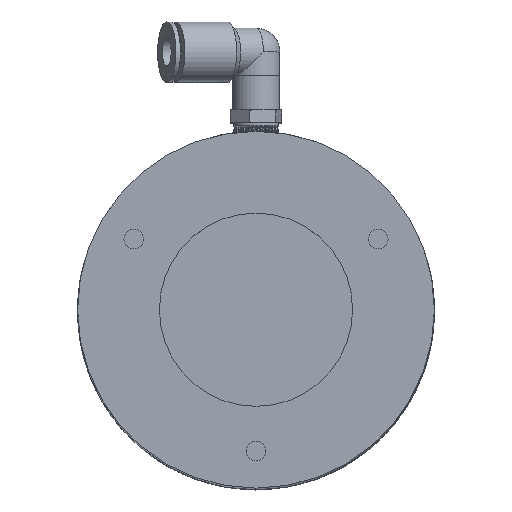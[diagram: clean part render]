
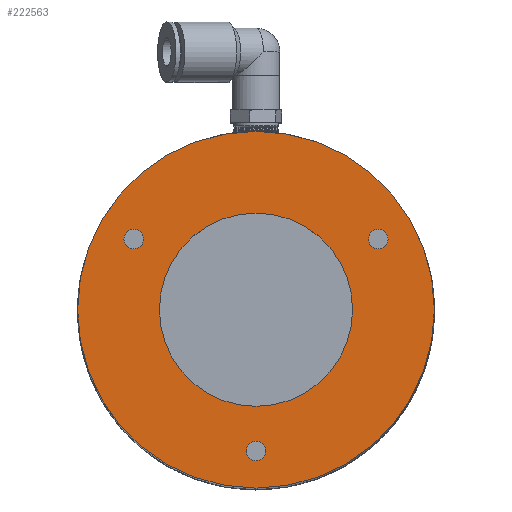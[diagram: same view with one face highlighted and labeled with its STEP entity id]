
A CAD part, top view. The second image highlights one B-rep face of the part: STEP entity #222563.
In plain terms, the highlighted planar face has unit normal (0, 0, 1).
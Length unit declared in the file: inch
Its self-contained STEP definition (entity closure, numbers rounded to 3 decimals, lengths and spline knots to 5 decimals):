
#6461 = EDGE_LOOP ( 'NONE', ( #86839, #131776 ) ) ;
#9809 = AXIS2_PLACEMENT_3D ( 'NONE', #139252, #194798, #47986 ) ;
#10966 = VERTEX_POINT ( 'NONE', #58265 ) ;
#12517 = VERTEX_POINT ( 'NONE', #188891 ) ;
#14019 = CARTESIAN_POINT ( 'NONE',  ( 0., 0., 0.75 ) ) ;
#16133 = CARTESIAN_POINT ( 'NONE',  ( -1.02841, 0.59375, 0.75 ) ) ;
#21517 = EDGE_LOOP ( 'NONE', ( #215700, #225888 ) ) ;
#23944 = EDGE_CURVE ( 'Defeatured_0_5669+Defeatured_0_79+Defeatured_0_79+Defeatured_0_79', #10966, #197312, #92041, .T. ) ;
#24301 = CARTESIAN_POINT ( 'NONE',  ( 1.11108, 0.59375, 0.75 ) ) ;
#28544 = AXIS2_PLACEMENT_3D ( 'NONE', #105483, #158685, #30418 ) ;
#30418 = DIRECTION ( 'NONE',  ( 1., 0., 0. ) ) ;
#30554 = ORIENTED_EDGE ( 'NONE', *, *, #143130, .F. ) ;
#37022 = EDGE_LOOP ( 'NONE', ( #30554, #108685 ) ) ;
#38113 = CIRCLE ( 'NONE', #69046, 0.08268 ) ;
#44803 = DIRECTION ( 'NONE',  ( 0., 0., 1. ) ) ;
#47405 = ORIENTED_EDGE ( 'NONE', *, *, #23944, .F. ) ;
#47932 = CARTESIAN_POINT ( 'NONE',  ( 0., 0., 0.75 ) ) ;
#47986 = DIRECTION ( 'NONE',  ( 1., 0., 0. ) ) ;
#49700 = AXIS2_PLACEMENT_3D ( 'NONE', #16133, #53133, #181327 ) ;
#53133 = DIRECTION ( 'NONE',  ( 0., 0., 1. ) ) ;
#55616 = EDGE_CURVE ( 'Defeatured_0_79+Defeatured_0_37+Defeatured_0_37+Defeatured_0_37', #238462, #61874, #131016, .T. ) ;
#58265 = CARTESIAN_POINT ( 'NONE',  ( -1.11108, 0.59375, 0.75 ) ) ;
#59656 = VERTEX_POINT ( 'NONE', #107648 ) ;
#61671 = CARTESIAN_POINT ( 'NONE',  ( 0., -1.1875, 0.75 ) ) ;
#61874 = VERTEX_POINT ( 'NONE', #93997 ) ;
#63909 = EDGE_LOOP ( 'NONE', ( #163580, #199422 ) ) ;
#66496 = DIRECTION ( 'NONE',  ( 0., 0., 1. ) ) ;
#68758 = DIRECTION ( 'NONE',  ( 0., 0., 1. ) ) ;
#69046 = AXIS2_PLACEMENT_3D ( 'NONE', #207910, #204773, #226422 ) ;
#69394 = AXIS2_PLACEMENT_3D ( 'NONE', #97493, #170835, #189314 ) ;
#82639 = FACE_OUTER_BOUND ( 'NONE', #6461, .T. ) ;
#86839 = ORIENTED_EDGE ( 'NONE', *, *, #203541, .T. ) ;
#88832 = AXIS2_PLACEMENT_3D ( 'NONE', #222939, #165796, #112553 ) ;
#92041 = CIRCLE ( 'NONE', #49700, 0.08268 ) ;
#93997 = CARTESIAN_POINT ( 'NONE',  ( -1.5, 0., 0.75 ) ) ;
#97493 = CARTESIAN_POINT ( 'NONE',  ( 1.02841, 0.59375, 0.75 ) ) ;
#99736 = EDGE_LOOP ( 'NONE', ( #106078, #47405 ) ) ;
#100822 = VERTEX_POINT ( 'NONE', #24301 ) ;
#101776 = EDGE_CURVE ( 'Defeatured_0_5671+Defeatured_0_79+Defeatured_0_79+Defeatured_0_79', #100822, #59656, #38113, .T. ) ;
#101913 = AXIS2_PLACEMENT_3D ( 'NONE', #14019, #68758, #163134 ) ;
#102995 = FACE_BOUND ( 'NONE', #37022, .T. ) ;
#104878 = CIRCLE ( 'NONE', #119930, 0.08268 ) ;
#105483 = CARTESIAN_POINT ( 'NONE',  ( 0., -1.1875, 0.75 ) ) ;
#106078 = ORIENTED_EDGE ( 'NONE', *, *, #137790, .F. ) ;
#107648 = CARTESIAN_POINT ( 'NONE',  ( 0.94573, 0.59375, 0.75 ) ) ;
#108685 = ORIENTED_EDGE ( 'NONE', *, *, #183009, .F. ) ;
#111823 = VERTEX_POINT ( 'NONE', #112784 ) ;
#112553 = DIRECTION ( 'NONE',  ( 1., 0., 0. ) ) ;
#112784 = CARTESIAN_POINT ( 'NONE',  ( 0.8125, 0., 0.75 ) ) ;
#113443 = CIRCLE ( 'NONE', #69394, 0.08268 ) ;
#115440 = CIRCLE ( 'NONE', #137339, 0.08268 ) ;
#117708 = CARTESIAN_POINT ( 'NONE',  ( 1.5, 0., 0.75 ) ) ;
#119930 = AXIS2_PLACEMENT_3D ( 'NONE', #158970, #121129, #158190 ) ;
#121129 = DIRECTION ( 'NONE',  ( 0., 0., 1. ) ) ;
#125243 = DIRECTION ( 'NONE',  ( 1., 0., 0. ) ) ;
#125736 = CIRCLE ( 'NONE', #206107, 0.8125 ) ;
#128400 = VERTEX_POINT ( 'NONE', #206314 ) ;
#131016 = CIRCLE ( 'NONE', #101913, 1.5 ) ;
#131776 = ORIENTED_EDGE ( 'NONE', *, *, #55616, .T. ) ;
#133233 = AXIS2_PLACEMENT_3D ( 'NONE', #47932, #66496, #177002 ) ;
#137339 = AXIS2_PLACEMENT_3D ( 'NONE', #61671, #44803, #191536 ) ;
#137790 = EDGE_CURVE ( 'Defeatured_0_5669+Defeatured_0_79+Defeatured_0_79+Defeatured_0_79', #197312, #10966, #104878, .T. ) ;
#139252 = CARTESIAN_POINT ( 'NONE',  ( 0., 0., 0.75 ) ) ;
#143130 = EDGE_CURVE ( 'Defeatured_0_5675+Defeatured_0_79+Defeatured_0_79+Defeatured_0_79', #111823, #223069, #216654, .T. ) ;
#152171 = EDGE_CURVE ( 'Defeatured_0_5671+Defeatured_0_79+Defeatured_0_79+Defeatured_0_79', #59656, #100822, #113443, .T. ) ;
#158190 = DIRECTION ( 'NONE',  ( 1., 0., 0. ) ) ;
#158685 = DIRECTION ( 'NONE',  ( 0., 0., 1. ) ) ;
#158970 = CARTESIAN_POINT ( 'NONE',  ( -1.02841, 0.59375, 0.75 ) ) ;
#162271 = CARTESIAN_POINT ( 'NONE',  ( -0.94573, 0.59375, 0.75 ) ) ;
#163134 = DIRECTION ( 'NONE',  ( 1., 0., 0. ) ) ;
#163580 = ORIENTED_EDGE ( 'NONE', *, *, #189112, .F. ) ;
#165796 = DIRECTION ( 'NONE',  ( 0., 0., 1. ) ) ;
#166408 = FACE_BOUND ( 'NONE', #99736, .T. ) ;
#170835 = DIRECTION ( 'NONE',  ( 0., 0., 1. ) ) ;
#172185 = CIRCLE ( 'NONE', #28544, 0.08268 ) ;
#177002 = DIRECTION ( 'NONE',  ( 1., 0., 0. ) ) ;
#177928 = FACE_BOUND ( 'NONE', #21517, .T. ) ;
#181282 = CIRCLE ( 'NONE', #133233, 1.5 ) ;
#181327 = DIRECTION ( 'NONE',  ( 1., 0., 0. ) ) ;
#183009 = EDGE_CURVE ( 'Defeatured_0_5675+Defeatured_0_79+Defeatured_0_79+Defeatured_0_79', #223069, #111823, #125736, .T. ) ;
#188891 = CARTESIAN_POINT ( 'NONE',  ( 0.08268, -1.1875, 0.75 ) ) ;
#189112 = EDGE_CURVE ( 'Defeatured_0_5673+Defeatured_0_79+Defeatured_0_79+Defeatured_0_79', #12517, #128400, #115440, .T. ) ;
#189314 = DIRECTION ( 'NONE',  ( 1., 0., 0. ) ) ;
#191536 = DIRECTION ( 'NONE',  ( 1., 0., 0. ) ) ;
#192240 = FACE_BOUND ( 'NONE', #63909, .T. ) ;
#194798 = DIRECTION ( 'NONE',  ( 0., 0., 1. ) ) ;
#197312 = VERTEX_POINT ( 'NONE', #162271 ) ;
#199422 = ORIENTED_EDGE ( 'NONE', *, *, #205647, .F. ) ;
#203541 = EDGE_CURVE ( 'Defeatured_0_79+Defeatured_0_37+Defeatured_0_37+Defeatured_0_37', #61874, #238462, #181282, .T. ) ;
#204462 = PLANE ( 'NONE',  #88832 ) ;
#204773 = DIRECTION ( 'NONE',  ( 0., 0., 1. ) ) ;
#205207 = CARTESIAN_POINT ( 'NONE',  ( -0.8125, 0., 0.75 ) ) ;
#205647 = EDGE_CURVE ( 'Defeatured_0_5673+Defeatured_0_79+Defeatured_0_79+Defeatured_0_79', #128400, #12517, #172185, .T. ) ;
#206107 = AXIS2_PLACEMENT_3D ( 'NONE', #217106, #235630, #125243 ) ;
#206314 = CARTESIAN_POINT ( 'NONE',  ( -0.08268, -1.1875, 0.75 ) ) ;
#207910 = CARTESIAN_POINT ( 'NONE',  ( 1.02841, 0.59375, 0.75 ) ) ;
#215700 = ORIENTED_EDGE ( 'NONE', *, *, #101776, .F. ) ;
#216654 = CIRCLE ( 'NONE', #9809, 0.8125 ) ;
#217106 = CARTESIAN_POINT ( 'NONE',  ( 0., 0., 0.75 ) ) ;
#222563 = ADVANCED_FACE ( 'Defeatured_0_79', ( #102995, #192240, #177928, #166408, #82639 ), #204462, .T. ) ;
#222939 = CARTESIAN_POINT ( 'NONE',  ( 0., 0., 0.75 ) ) ;
#223069 = VERTEX_POINT ( 'NONE', #205207 ) ;
#225888 = ORIENTED_EDGE ( 'NONE', *, *, #152171, .F. ) ;
#226422 = DIRECTION ( 'NONE',  ( 1., 0., 0. ) ) ;
#235630 = DIRECTION ( 'NONE',  ( 0., 0., 1. ) ) ;
#238462 = VERTEX_POINT ( 'NONE', #117708 ) ;
